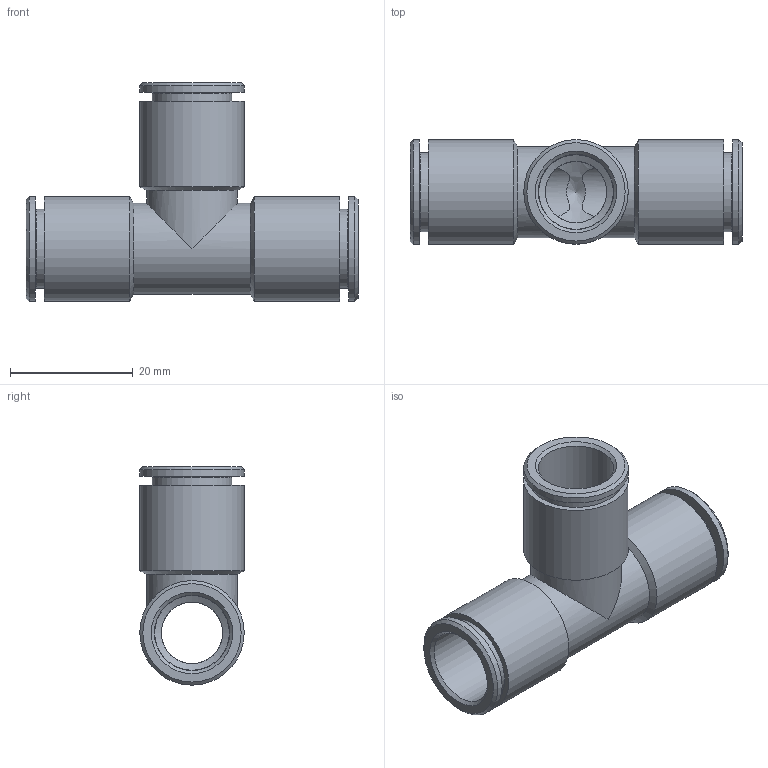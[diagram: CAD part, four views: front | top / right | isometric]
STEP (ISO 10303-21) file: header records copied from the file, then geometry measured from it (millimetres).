
FILE_DESCRIPTION(('Bauteilbeschreibung','HiCAD-Model','HiCAD-STEP-TRANSLATION','Bauteilbeschreibung'),'2;1');
FILE_NAME('B:/ABGLEICH/ZEICHNUNGEN/STEP FÜR INTERNET/STEP/200506_IPSO_05_12.STP','2011-07-22T12:07:37+00:00',('Konstrukteur'),('Konstrukteur Firma GmbH'),' HiCAD neXt 2008, Step 3.1.1401.2J ','HiCAD neXt 2008','confidential');
FILE_SCHEMA(('AUTOMOTIVE_DESIGN { 1 2 10303 214 0 1 1 1 }'));
Length unit declared in the file: millimetre
Products named in the file (5): A00506_IPSO_05_12; DR12_5; DR1205; DR12050; R200506
Assembly tree (4 placements, depth 2):
  A00506_IPSO_05_12
    DR12_5
    DR1205
    DR12050
    R200506
Bounding box: 54 x 17 x 35.5 mm (x, y, z)
Volume: 5402.9 mm3; surface area: 10197.7 mm2
Topology: 4 solids, 4 shells, 83 faces, 167 edges, 96 vertices
Faces by surface type: cone 31, cylinder 31, plane 15, torus 6
Full cylindrical faces by diameter (mm): 10 x3, 12.15 x3, 12.25 x3, 12.9 x3, 14.5 x3, 14.7 x3, 14.8 x2, 15.2 x3, 17 x6
Entity records: 2591 total; most frequent: CARTESIAN_POINT 547, DIRECTION 358, ORIENTED_EDGE 180, AXIS2_PLACEMENT_3D 179, EDGE_LOOP 164, COLOUR_RGB 92, PRESENTATION_STYLE_ASSIGNMENT 92, EDGE_CURVE 90
